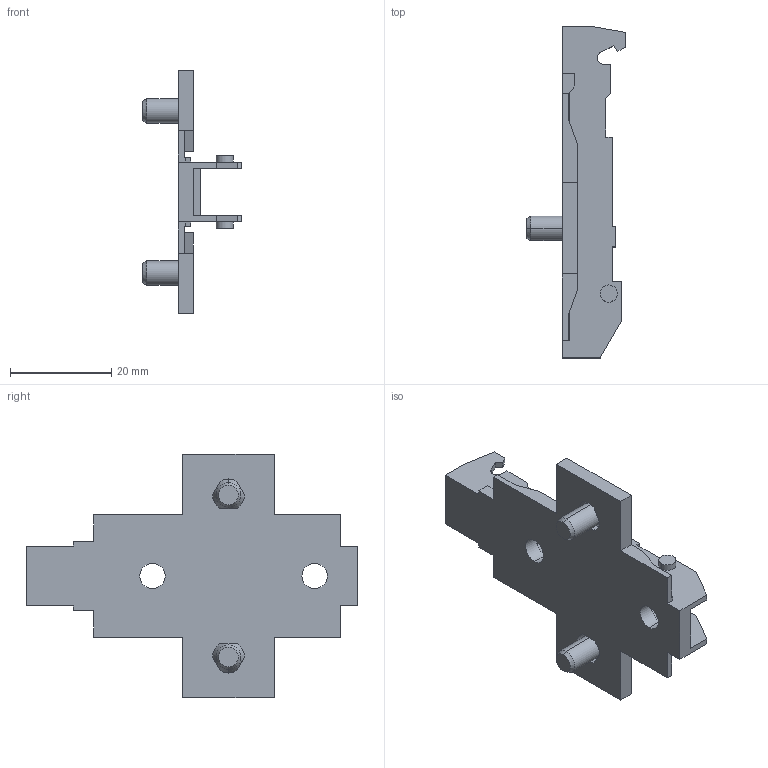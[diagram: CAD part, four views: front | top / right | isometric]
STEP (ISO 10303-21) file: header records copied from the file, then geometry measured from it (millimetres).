
FILE_DESCRIPTION (( 'STEP AP214' ), '1' );
FILE_NAME ('1D_Kreuzmontageplatte 37_32_Euro_vorgestellt 10_2.step', '2018-10-02T12:39:03', ( '' ), ( '' ), 'SwSTEP 2.0', 'SolidWorks 2017', '' );
FILE_SCHEMA (( 'AUTOMOTIVE_DESIGN' ));
Length unit declared in the file: millimetre
Products named in the file (1): 1D_Kreuzmontageplatte 37_32_Euro_vorgestellt 10_2
Bounding box: 19.5 x 65.5 x 48 mm (x, y, z)
Volume: 6292.2 mm3; surface area: 6825.6 mm2
Topology: 1 solids, 1 shells, 140 faces, 400 edges, 260 vertices
Faces by surface type: plane 94, cylinder 34, cone 12
Entity records: 4642 total; most frequent: CARTESIAN_POINT 893, ORIENTED_EDGE 800, DIRECTION 742, EDGE_CURVE 400, VECTOR 300, LINE 300, VERTEX_POINT 260, AXIS2_PLACEMENT_3D 221
